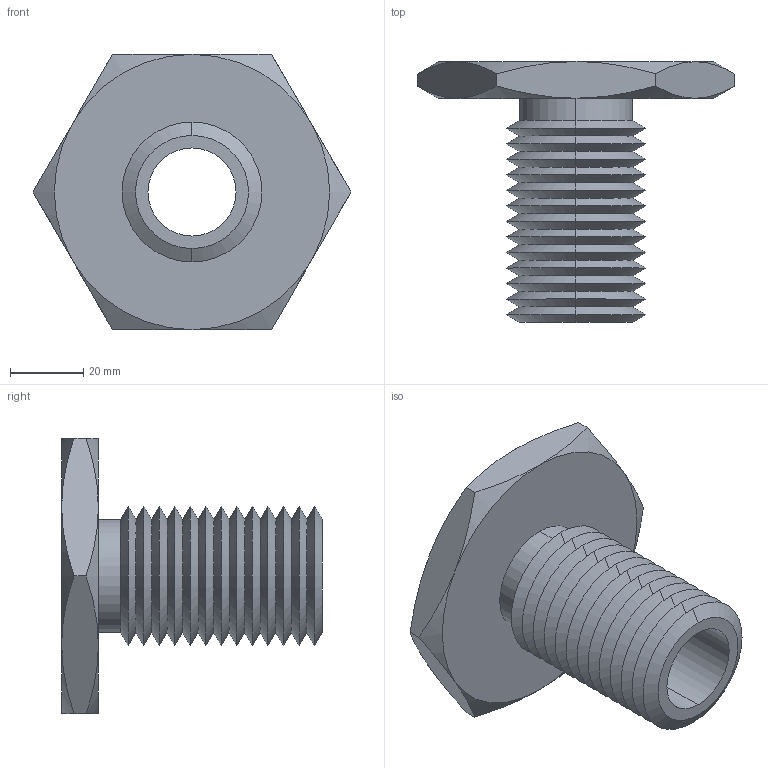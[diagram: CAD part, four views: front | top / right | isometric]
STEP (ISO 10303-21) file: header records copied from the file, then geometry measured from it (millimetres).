
FILE_DESCRIPTION (( 'STEP AP203' ), '1' );
FILE_NAME ('63302.W5150_M24x3.step', '2013-12-08T11:45:51', ( 'User' ), ( '' ), 'SwSTEP 2.0', 'SolidWorks 2009', '' );
FILE_SCHEMA (( 'CONFIG_CONTROL_DESIGN' ));
Length unit declared in the file: millimetre
Products named in the file (1): 63302.W5150_M24x3
Bounding box: 86.6 x 71 x 75 mm (x, y, z)
Volume: 71190.9 mm3; surface area: 28691.2 mm2
Topology: 1 solids, 1 shells, 79 faces, 162 edges, 86 vertices
Faces by surface type: cone 66, plane 9, cylinder 4
Entity records: 2239 total; most frequent: CARTESIAN_POINT 512, DIRECTION 372, ORIENTED_EDGE 324, EDGE_CURVE 162, AXIS2_PLACEMENT_3D 154, VERTEX_POINT 86, EDGE_LOOP 82, ADVANCED_FACE 79
